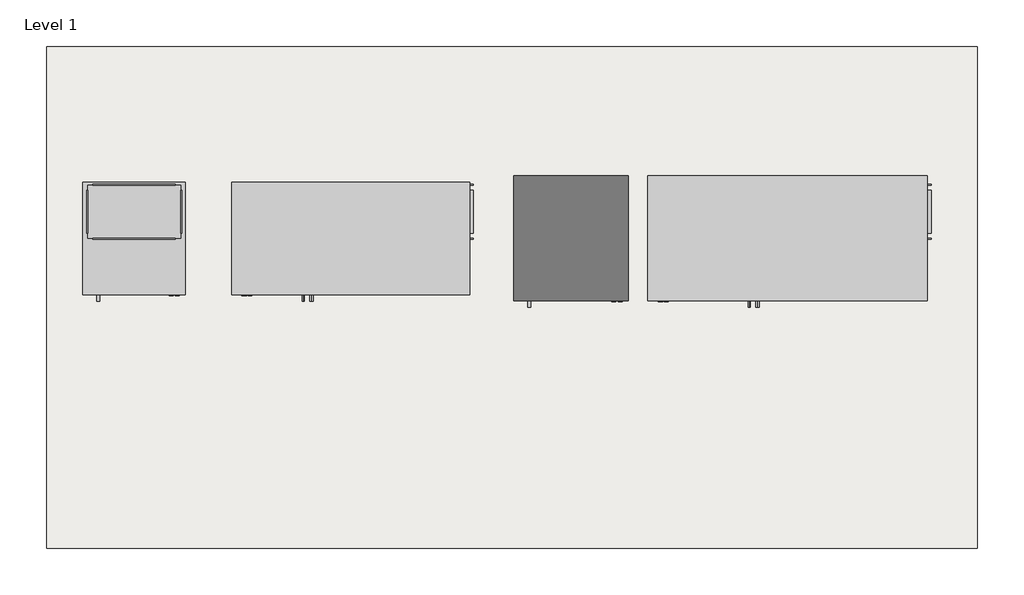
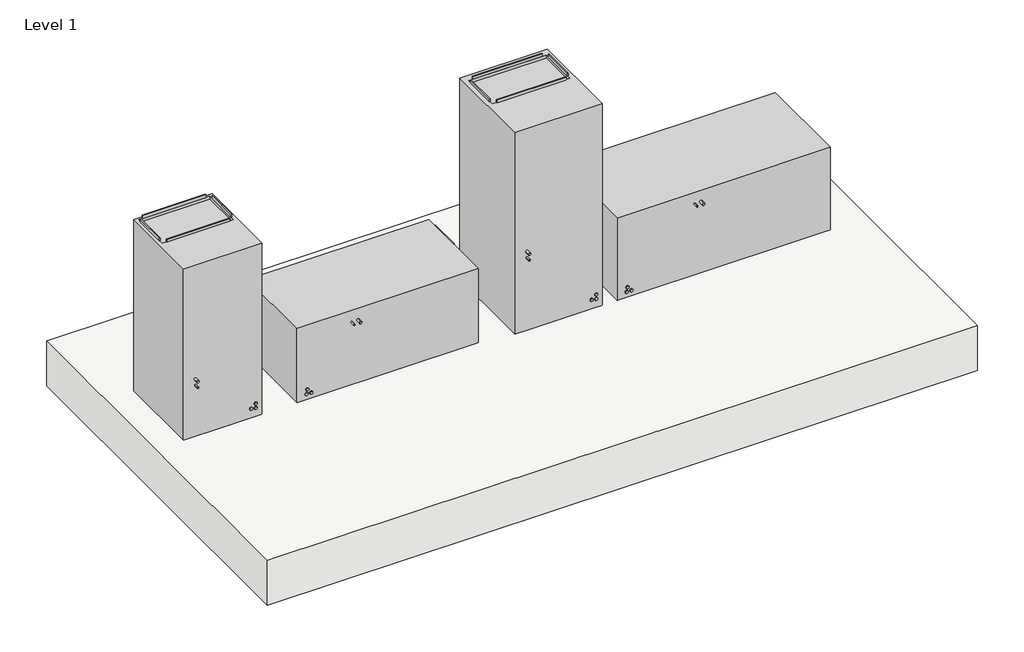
# One storey: 4 proxies, 1 slab.
"""IFC4 building model written with IfcOpenShell, lengths in millimetres."""

from ifc_helpers import new_model, si_unit, frame, origin, place, context, project, spatial, polyline, outline, extrude, transform, mapped, element, save
from components import proxy_18000_btu_h_9c45835d, proxy_18000_btu_h_5de70b9d, proxy_54000_btu_h_27a44d0b, proxy_54000_btu_h_7d7a4dff

model = new_model("IFC4")

# Units and contexts
model_context = context("Model", 3, world=origin())
ifc_project = project(units=[si_unit("LENGTHUNIT", "METRE", prefix="MILLI")], contexts=[model_context])

# Site, building, storey
site = spatial("IfcSite", under=ifc_project)
building = spatial("IfcBuilding", under=site)
storey = spatial("IfcBuildingStorey", under=building, Name="Level 1", Elevation=0.0)

# Proxies
placement = place(None, origin())
proxy_18000_btu_h_shape = proxy_18000_btu_h_9c45835d(model_context)
element("IfcBuildingElementProxy", 1, Name="Lennox-VRF-Concealed_Vertical_Air_Handler-VVCA-2P_Series : 18000 Btu/h", ObjectType="Lennox-VRF-Concealed_Vertical_Air_Handler-VVCA-2P_Series : 18000 Btu/h", at=placement, inside=storey, context=model_context, shape_type="MappedRepresentation", body=[
    mapped(proxy_18000_btu_h_shape, transform((1651.206622, 1178.8463444, 0.0), x_axis=(1.0, 0.0, 0.0), y_axis=(0.0, 1.0, 0.0), z_axis=(0.0, 0.0, 1.0))),
])
proxy_18000_btu_h_2_shape = proxy_18000_btu_h_5de70b9d(model_context)
element("IfcBuildingElementProxy", 2, Name="Lennox-VRF-Concealed_Vertical_Air_Handler-VVCA-2P_Series : 18000 Btu/h", ObjectType="Lennox-VRF-Concealed_Vertical_Air_Handler-VVCA-2P_Series : 18000 Btu/h", at=placement, inside=storey, context=model_context, shape_type="MappedRepresentation", body=[
    mapped(proxy_18000_btu_h_2_shape, transform((2718.006622, 1178.8463444, 0.0), x_axis=(1.0, 0.0, 0.0), y_axis=(0.0, 1.0, 0.0), z_axis=(0.0, 0.0, 1.0))),
])
proxy_54000_btu_h_shape = proxy_54000_btu_h_27a44d0b(model_context)
element("IfcBuildingElementProxy", 3, Name="Lennox-VRF-Concealed_Vertical_Air_Handler-VVCA-2P_Series : 54000 Btu/h", ObjectType="Lennox-VRF-Concealed_Vertical_Air_Handler-VVCA-2P_Series : 54000 Btu/h", at=placement, inside=storey, context=model_context, shape_type="MappedRepresentation", body=[
    mapped(proxy_54000_btu_h_shape, transform((3784.806622, 1178.8463444, 0.0), x_axis=(1.0, 0.0, 0.0), y_axis=(0.0, 1.0, 0.0), z_axis=(0.0, 0.0, 1.0))),
])
proxy_54000_btu_h_2_shape = proxy_54000_btu_h_7d7a4dff(model_context)
element("IfcBuildingElementProxy", 4, Name="Lennox-VRF-Concealed_Vertical_Air_Handler-VVCA-2P_Series : 54000 Btu/h", ObjectType="Lennox-VRF-Concealed_Vertical_Air_Handler-VVCA-2P_Series : 54000 Btu/h", at=placement, inside=storey, context=model_context, shape_type="MappedRepresentation", body=[
    mapped(proxy_54000_btu_h_2_shape, transform((4851.606622, 1178.8463444, 0.0), x_axis=(1.0, 0.0, 0.0), y_axis=(0.0, 1.0, 0.0), z_axis=(0.0, 0.0, 1.0))),
])

# Slab
element("IfcSlab", 5, ObjectType="Generic - 12\"", at=placement, inside=storey, context=model_context, shape_type="SweptSolid", body=[
    extrude(outline(polyline([(5770.1973575, 2115.5766815), (5770.1973575, -333.5794355), (1223.5973575, -333.5794355), (1223.5973575, 2115.5766815), (5770.1973575, 2115.5766815)])), frame((0.0, 0.0, -304.8), z_axis=(0.0, 0.0, 1.0), x_axis=(1.0, 0.0, 0.0)), (0.0, 0.0, 1.0), 304.8),
])

save(model, "model.ifc")
